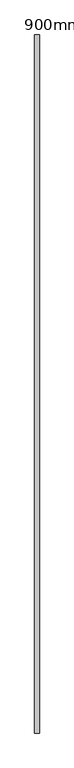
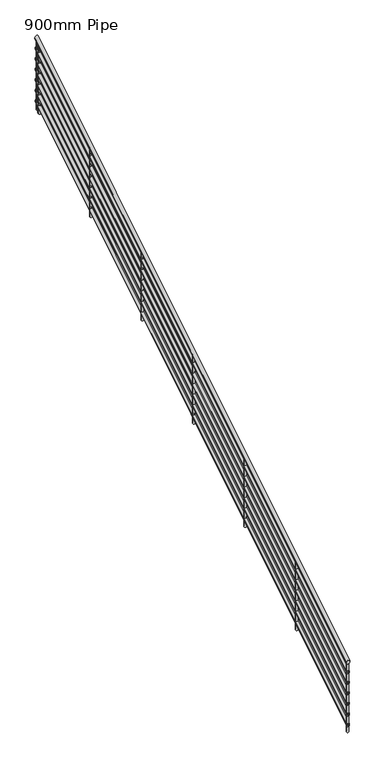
"""IFC4 building model written with IfcOpenShell, lengths in millimetres: railing geometry, 900mm Pipe."""

from ifc_helpers import new_model, si_unit, frame, origin, place, context, project, spatial, ellipse_curve, source, transform, mapped, element, save
from ifc_brep_helpers import plane_surface, cylinder_surface, advanced_brep


def railing_900mm_pipe_8454365b(model_context):
    return source(origin(), model_context, "Body", "AdvancedBrep", [
        advanced_brep(
        [(5551.7758541, -3889.7600263, 1046.0688642), (5591.7758541, -3889.7600263, 1046.0688642), (5551.7758541, 2160.2399737, 4776.5036468), (5591.7758541, 2160.2399737, 4776.5036468)],
        [
            (0, 1, ellipse_curve(frame((5571.7758541, -3889.7600263, 1046.0688642), z_axis=(0.0, -1.0, 0.0), x_axis=(0.0, 0.0, -1.0)), 23.4963532, 20.0)),
            (1, 0, ellipse_curve(frame((5571.7758541, -3889.7600263, 1046.0688642), z_axis=(0.0, -1.0, 0.0), x_axis=(0.0, 0.0, -1.0)), 23.4963532, 20.0)),
            (2, 3, ellipse_curve(frame((5571.7758541, 2160.2399737, 4776.5036468), z_axis=(0.0, 1.0, 0.0), x_axis=(0.0, 0.0, -1.0)), 23.4963532, 20.0)),
            (3, 2, ellipse_curve(frame((5571.7758541, 2160.2399737, 4776.5036468), z_axis=(0.0, 1.0, 0.0), x_axis=(0.0, 0.0, -1.0)), 23.4963532, 20.0)),
            (0, 2),
            (3, 1),
        ],
        [
            plane_surface(frame((5571.7758541, -3889.7600263, 1069.5652174), z_axis=(0.0, -1.0, 0.0), x_axis=(0.0, 0.0, 1.0))),
            plane_surface(frame((5571.7758541, 2160.2399737, 4800.0), z_axis=(0.0, 1.0, 0.0), x_axis=(0.0, 0.0, 1.0))),
            cylinder_surface(frame((5571.7758541, -3879.2630647, 1052.541299), z_axis=(0.0, -0.851195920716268, -0.524848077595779), x_axis=(1.0, 0.0, 0.0)), 20.0),
        ],
        [
            (0, [[1, 2]]),
            (1, [[3, 4]]),
            (2, [[-1, 5, -4, 6]]),
            (2, [[-2, -6, -3, -5]]),
        ],
    ),
        advanced_brep(
        [(5556.7758541, -3889.7600263, 926.9429525), (5586.7758541, -3889.7600263, 926.9429525), (5556.7758541, 2160.2399737, 4657.3777351), (5586.7758541, 2160.2399737, 4657.3777351)],
        [
            (0, 1, ellipse_curve(frame((5571.7758541, -3889.7600263, 926.9429525), z_axis=(0.0, -1.0, 0.0), x_axis=(0.0, 0.0, -1.0)), 17.6222649, 15.0)),
            (1, 0, ellipse_curve(frame((5571.7758541, -3889.7600263, 926.9429525), z_axis=(0.0, -1.0, 0.0), x_axis=(0.0, 0.0, -1.0)), 17.6222649, 15.0)),
            (2, 3, ellipse_curve(frame((5571.7758541, 2160.2399737, 4657.3777351), z_axis=(0.0, 1.0, 0.0), x_axis=(0.0, 0.0, -1.0)), 17.6222649, 15.0)),
            (3, 2, ellipse_curve(frame((5571.7758541, 2160.2399737, 4657.3777351), z_axis=(0.0, 1.0, 0.0), x_axis=(0.0, 0.0, -1.0)), 17.6222649, 15.0)),
            (0, 2),
            (3, 1),
        ],
        [
            plane_surface(frame((5571.7758541, -3889.7600263, 944.5652174), z_axis=(0.0, -1.0, 0.0), x_axis=(0.0, 0.0, 1.0))),
            plane_surface(frame((5571.7758541, 2160.2399737, 4675.0), z_axis=(0.0, 1.0, 0.0), x_axis=(0.0, 0.0, 1.0))),
            cylinder_surface(frame((5571.7758541, -3881.8873051, 931.7972786), z_axis=(0.0, -0.851195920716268, -0.524848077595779), x_axis=(1.0, 0.0, 0.0)), 15.0),
        ],
        [
            (0, [[1, 2]]),
            (1, [[3, 4]]),
            (2, [[-1, 5, -4, 6]]),
            (2, [[-2, -6, -3, -5]]),
        ],
    ),
        advanced_brep(
        [(5556.7758541, -3889.7600263, 801.9429525), (5586.7758541, -3889.7600263, 801.9429525), (5556.7758541, 2160.2399737, 4532.3777351), (5586.7758541, 2160.2399737, 4532.3777351)],
        [
            (0, 1, ellipse_curve(frame((5571.7758541, -3889.7600263, 801.9429525), z_axis=(0.0, -1.0, 0.0), x_axis=(0.0, 0.0, -1.0)), 17.6222649, 15.0)),
            (1, 0, ellipse_curve(frame((5571.7758541, -3889.7600263, 801.9429525), z_axis=(0.0, -1.0, 0.0), x_axis=(0.0, 0.0, -1.0)), 17.6222649, 15.0)),
            (2, 3, ellipse_curve(frame((5571.7758541, 2160.2399737, 4532.3777351), z_axis=(0.0, 1.0, 0.0), x_axis=(0.0, 0.0, -1.0)), 17.6222649, 15.0)),
            (3, 2, ellipse_curve(frame((5571.7758541, 2160.2399737, 4532.3777351), z_axis=(0.0, 1.0, 0.0), x_axis=(0.0, 0.0, -1.0)), 17.6222649, 15.0)),
            (0, 2),
            (3, 1),
        ],
        [
            plane_surface(frame((5571.7758541, -3889.7600263, 819.5652174), z_axis=(0.0, -1.0, 0.0), x_axis=(0.0, 0.0, 1.0))),
            plane_surface(frame((5571.7758541, 2160.2399737, 4550.0), z_axis=(0.0, 1.0, 0.0), x_axis=(0.0, 0.0, 1.0))),
            cylinder_surface(frame((5571.7758541, -3881.8873051, 806.7972786), z_axis=(0.0, -0.851195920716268, -0.524848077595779), x_axis=(1.0, 0.0, 0.0)), 15.0),
        ],
        [
            (0, [[1, 2]]),
            (1, [[3, 4]]),
            (2, [[-1, 5, -4, 6]]),
            (2, [[-2, -6, -3, -5]]),
        ],
    ),
        advanced_brep(
        [(5556.7758541, -3889.7600263, 676.9429525), (5586.7758541, -3889.7600263, 676.9429525), (5556.7758541, 2160.2399737, 4407.3777351), (5586.7758541, 2160.2399737, 4407.3777351)],
        [
            (0, 1, ellipse_curve(frame((5571.7758541, -3889.7600263, 676.9429525), z_axis=(0.0, -1.0, 0.0), x_axis=(0.0, 0.0, -1.0)), 17.6222649, 15.0)),
            (1, 0, ellipse_curve(frame((5571.7758541, -3889.7600263, 676.9429525), z_axis=(0.0, -1.0, 0.0), x_axis=(0.0, 0.0, -1.0)), 17.6222649, 15.0)),
            (2, 3, ellipse_curve(frame((5571.7758541, 2160.2399737, 4407.3777351), z_axis=(0.0, 1.0, 0.0), x_axis=(0.0, 0.0, -1.0)), 17.6222649, 15.0)),
            (3, 2, ellipse_curve(frame((5571.7758541, 2160.2399737, 4407.3777351), z_axis=(0.0, 1.0, 0.0), x_axis=(0.0, 0.0, -1.0)), 17.6222649, 15.0)),
            (0, 2),
            (3, 1),
        ],
        [
            plane_surface(frame((5571.7758541, -3889.7600263, 694.5652174), z_axis=(0.0, -1.0, 0.0), x_axis=(0.0, 0.0, 1.0))),
            plane_surface(frame((5571.7758541, 2160.2399737, 4425.0), z_axis=(0.0, 1.0, 0.0), x_axis=(0.0, 0.0, 1.0))),
            cylinder_surface(frame((5571.7758541, -3881.8873051, 681.7972786), z_axis=(0.0, -0.851195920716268, -0.524848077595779), x_axis=(1.0, 0.0, 0.0)), 15.0),
        ],
        [
            (0, [[1, 2]]),
            (1, [[3, 4]]),
            (2, [[-1, 5, -4, 6]]),
            (2, [[-2, -6, -3, -5]]),
        ],
    ),
        advanced_brep(
        [(5556.7758541, -3889.7600263, 551.9429525), (5586.7758541, -3889.7600263, 551.9429525), (5556.7758541, 2160.2399737, 4282.3777351), (5586.7758541, 2160.2399737, 4282.3777351)],
        [
            (0, 1, ellipse_curve(frame((5571.7758541, -3889.7600263, 551.9429525), z_axis=(0.0, -1.0, 0.0), x_axis=(0.0, 0.0, -1.0)), 17.6222649, 15.0)),
            (1, 0, ellipse_curve(frame((5571.7758541, -3889.7600263, 551.9429525), z_axis=(0.0, -1.0, 0.0), x_axis=(0.0, 0.0, -1.0)), 17.6222649, 15.0)),
            (2, 3, ellipse_curve(frame((5571.7758541, 2160.2399737, 4282.3777351), z_axis=(0.0, 1.0, 0.0), x_axis=(0.0, 0.0, -1.0)), 17.6222649, 15.0)),
            (3, 2, ellipse_curve(frame((5571.7758541, 2160.2399737, 4282.3777351), z_axis=(0.0, 1.0, 0.0), x_axis=(0.0, 0.0, -1.0)), 17.6222649, 15.0)),
            (0, 2),
            (3, 1),
        ],
        [
            plane_surface(frame((5571.7758541, -3889.7600263, 569.5652174), z_axis=(0.0, -1.0, 0.0), x_axis=(0.0, 0.0, 1.0))),
            plane_surface(frame((5571.7758541, 2160.2399737, 4300.0), z_axis=(0.0, 1.0, 0.0), x_axis=(0.0, 0.0, 1.0))),
            cylinder_surface(frame((5571.7758541, -3881.8873051, 556.7972786), z_axis=(0.0, -0.851195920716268, -0.524848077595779), x_axis=(1.0, 0.0, 0.0)), 15.0),
        ],
        [
            (0, [[1, 2]]),
            (1, [[3, 4]]),
            (2, [[-1, 5, -4, 6]]),
            (2, [[-2, -6, -3, -5]]),
        ],
    ),
        advanced_brep(
        [(5556.7758541, -3889.7600263, 426.9429525), (5586.7758541, -3889.7600263, 426.9429525), (5556.7758541, 2160.2399737, 4157.3777351), (5586.7758541, 2160.2399737, 4157.3777351)],
        [
            (0, 1, ellipse_curve(frame((5571.7758541, -3889.7600263, 426.9429525), z_axis=(0.0, -1.0, 0.0), x_axis=(0.0, 0.0, -1.0)), 17.6222649, 15.0)),
            (1, 0, ellipse_curve(frame((5571.7758541, -3889.7600263, 426.9429525), z_axis=(0.0, -1.0, 0.0), x_axis=(0.0, 0.0, -1.0)), 17.6222649, 15.0)),
            (2, 3, ellipse_curve(frame((5571.7758541, 2160.2399737, 4157.3777351), z_axis=(0.0, 1.0, 0.0), x_axis=(0.0, 0.0, -1.0)), 17.6222649, 15.0)),
            (3, 2, ellipse_curve(frame((5571.7758541, 2160.2399737, 4157.3777351), z_axis=(0.0, 1.0, 0.0), x_axis=(0.0, 0.0, -1.0)), 17.6222649, 15.0)),
            (0, 2),
            (3, 1),
        ],
        [
            plane_surface(frame((5571.7758541, -3889.7600263, 444.5652174), z_axis=(0.0, -1.0, 0.0), x_axis=(0.0, 0.0, 1.0))),
            plane_surface(frame((5571.7758541, 2160.2399737, 4175.0), z_axis=(0.0, 1.0, 0.0), x_axis=(0.0, 0.0, 1.0))),
            cylinder_surface(frame((5571.7758541, -3881.8873051, 431.7972786), z_axis=(0.0, -0.851195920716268, -0.524848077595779), x_axis=(1.0, 0.0, 0.0)), 15.0),
        ],
        [
            (0, [[1, 2]]),
            (1, [[3, 4]]),
            (2, [[-1, 5, -4, 6]]),
            (2, [[-2, -6, -3, -5]]),
        ],
    ),
        advanced_brep(
        [(5556.7758541, -3889.7600263, 301.9429525), (5586.7758541, -3889.7600263, 301.9429525), (5556.7758541, 2160.2399737, 4032.3777351), (5586.7758541, 2160.2399737, 4032.3777351)],
        [
            (0, 1, ellipse_curve(frame((5571.7758541, -3889.7600263, 301.9429525), z_axis=(0.0, -1.0, 0.0), x_axis=(0.0, 0.0, -1.0)), 17.6222649, 15.0)),
            (1, 0, ellipse_curve(frame((5571.7758541, -3889.7600263, 301.9429525), z_axis=(0.0, -1.0, 0.0), x_axis=(0.0, 0.0, -1.0)), 17.6222649, 15.0)),
            (2, 3, ellipse_curve(frame((5571.7758541, 2160.2399737, 4032.3777351), z_axis=(0.0, 1.0, 0.0), x_axis=(0.0, 0.0, -1.0)), 17.6222649, 15.0)),
            (3, 2, ellipse_curve(frame((5571.7758541, 2160.2399737, 4032.3777351), z_axis=(0.0, 1.0, 0.0), x_axis=(0.0, 0.0, -1.0)), 17.6222649, 15.0)),
            (0, 2),
            (3, 1),
        ],
        [
            plane_surface(frame((5571.7758541, -3889.7600263, 319.5652174), z_axis=(0.0, -1.0, 0.0), x_axis=(0.0, 0.0, 1.0))),
            plane_surface(frame((5571.7758541, 2160.2399737, 4050.0), z_axis=(0.0, 1.0, 0.0), x_axis=(0.0, 0.0, 1.0))),
            cylinder_surface(frame((5571.7758541, -3881.8873051, 306.7972786), z_axis=(0.0, -0.851195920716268, -0.524848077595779), x_axis=(1.0, 0.0, 0.0)), 15.0),
        ],
        [
            (0, [[1, 2]]),
            (1, [[3, 4]]),
            (2, [[-1, 5, -4, 6]]),
            (2, [[-2, -6, -3, -5]]),
        ],
    ),
        advanced_brep(
        [(5584.2758541, 2110.2399737, 4722.1772541), (5584.2758541, 2110.2399737, 3913.2082186), (5559.2758541, 2110.2399737, 3913.2082186), (5559.2758541, 2110.2399737, 4722.1772541)],
        [
            (0, 1),
            (1, 2, ellipse_curve(frame((5571.7758541, 2110.2399737, 3913.2082186), z_axis=(0.0, -0.5248480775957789, 0.851195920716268), x_axis=(0.0, 0.851195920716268, 0.5248480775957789)), 14.6852208, 12.5)),
            (2, 3),
            (3, 0, ellipse_curve(frame((5571.7758541, 2110.2399737, 4722.1772541), z_axis=(0.0, 0.5248480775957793, -0.8511959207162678), x_axis=(0.0, 0.8511959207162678, 0.524848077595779)), 14.6852208, 12.5)),
            (0, 3, ellipse_curve(frame((5571.7758541, 2110.2399737, 4722.1772541), z_axis=(0.0, 0.5248480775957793, -0.8511959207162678), x_axis=(0.0, 0.8511959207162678, 0.524848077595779)), 14.6852208, 12.5)),
            (2, 1, ellipse_curve(frame((5571.7758541, 2110.2399737, 3913.2082186), z_axis=(0.0, -0.5248480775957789, 0.851195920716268), x_axis=(0.0, 0.851195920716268, 0.5248480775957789)), 14.6852208, 12.5)),
        ],
        [
            cylinder_surface(frame((5571.7758541, 2110.2399737, 3813.2082186), z_axis=(0.0, 0.0, 1.0), x_axis=(-1.0, 0.0, 0.0)), 12.5),
            plane_surface(frame((5546.7758541, 2135.2399737, 4737.5922738), z_axis=(0.0, -0.5248480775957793, 0.8511959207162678), x_axis=(1.0, 0.0, 0.0))),
            plane_surface(frame((5546.7758541, 2085.2399737, 3897.7931988), z_axis=(0.0, 0.5248480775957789, -0.851195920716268), x_axis=(1.0, 0.0, 0.0))),
        ],
        [
            (0, [[1, 2, 3, 4]]),
            (0, [[-1, 5, -3, 6]]),
            (1, [[-4, -5]]),
            (2, [[-2, -6]]),
        ],
    ),
        advanced_brep(
        [(5584.2758541, 1110.2399737, 4105.5764635), (5584.2758541, 1110.2399737, 3296.6074281), (5559.2758541, 1110.2399737, 3296.6074281), (5559.2758541, 1110.2399737, 4105.5764635)],
        [
            (0, 1),
            (1, 2, ellipse_curve(frame((5571.7758541, 1110.2399737, 3296.6074281), z_axis=(0.0, -0.5248480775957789, 0.851195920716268), x_axis=(0.0, 0.851195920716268, 0.5248480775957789)), 14.6852208, 12.5)),
            (2, 3),
            (3, 0, ellipse_curve(frame((5571.7758541, 1110.2399737, 4105.5764635), z_axis=(0.0, 0.5248480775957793, -0.8511959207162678), x_axis=(0.0, 0.8511959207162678, 0.524848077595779)), 14.6852208, 12.5)),
            (0, 3, ellipse_curve(frame((5571.7758541, 1110.2399737, 4105.5764635), z_axis=(0.0, 0.5248480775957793, -0.8511959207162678), x_axis=(0.0, 0.8511959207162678, 0.524848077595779)), 14.6852208, 12.5)),
            (2, 1, ellipse_curve(frame((5571.7758541, 1110.2399737, 3296.6074281), z_axis=(0.0, -0.5248480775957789, 0.851195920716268), x_axis=(0.0, 0.851195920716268, 0.5248480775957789)), 14.6852208, 12.5)),
        ],
        [
            cylinder_surface(frame((5571.7758541, 1110.2399737, 3196.6074281), z_axis=(0.0, 0.0, 1.0), x_axis=(-1.0, 0.0, 0.0)), 12.5),
            plane_surface(frame((5546.7758541, 1135.2399737, 4120.9914833), z_axis=(0.0, -0.5248480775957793, 0.8511959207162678), x_axis=(1.0, 0.0, 0.0))),
            plane_surface(frame((5546.7758541, 1085.2399737, 3281.1924083), z_axis=(0.0, 0.5248480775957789, -0.851195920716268), x_axis=(1.0, 0.0, 0.0))),
        ],
        [
            (0, [[1, 2, 3, 4]]),
            (0, [[-1, 5, -3, 6]]),
            (1, [[-4, -5]]),
            (2, [[-2, -6]]),
        ],
    ),
        advanced_brep(
        [(5584.2758541, 110.2399737, 3488.975673), (5584.2758541, 110.2399737, 2680.0066376), (5559.2758541, 110.2399737, 2680.0066376), (5559.2758541, 110.2399737, 3488.975673)],
        [
            (0, 1),
            (1, 2, ellipse_curve(frame((5571.7758541, 110.2399737, 2680.0066376), z_axis=(0.0, -0.5248480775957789, 0.851195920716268), x_axis=(0.0, 0.851195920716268, 0.5248480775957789)), 14.6852208, 12.5)),
            (2, 3),
            (3, 0, ellipse_curve(frame((5571.7758541, 110.2399737, 3488.975673), z_axis=(0.0, 0.5248480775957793, -0.8511959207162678), x_axis=(0.0, 0.8511959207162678, 0.524848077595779)), 14.6852208, 12.5)),
            (0, 3, ellipse_curve(frame((5571.7758541, 110.2399737, 3488.975673), z_axis=(0.0, 0.5248480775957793, -0.8511959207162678), x_axis=(0.0, 0.8511959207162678, 0.524848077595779)), 14.6852208, 12.5)),
            (2, 1, ellipse_curve(frame((5571.7758541, 110.2399737, 2680.0066376), z_axis=(0.0, -0.5248480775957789, 0.851195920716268), x_axis=(0.0, 0.851195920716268, 0.5248480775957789)), 14.6852208, 12.5)),
        ],
        [
            cylinder_surface(frame((5571.7758541, 110.2399737, 2580.0066376), z_axis=(0.0, 0.0, 1.0), x_axis=(-1.0, 0.0, 0.0)), 12.5),
            plane_surface(frame((5546.7758541, 135.2399737, 3504.3906928), z_axis=(0.0, -0.5248480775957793, 0.8511959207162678), x_axis=(1.0, 0.0, 0.0))),
            plane_surface(frame((5546.7758541, 85.2399737, 2664.5916178), z_axis=(0.0, 0.5248480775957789, -0.851195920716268), x_axis=(1.0, 0.0, 0.0))),
        ],
        [
            (0, [[1, 2, 3, 4]]),
            (0, [[-1, 5, -3, 6]]),
            (1, [[-4, -5]]),
            (2, [[-2, -6]]),
        ],
    ),
        advanced_brep(
        [(5584.2758541, -889.7600263, 2872.3748825), (5584.2758541, -889.7600263, 2063.4058471), (5559.2758541, -889.7600263, 2063.4058471), (5559.2758541, -889.7600263, 2872.3748825)],
        [
            (0, 1),
            (1, 2, ellipse_curve(frame((5571.7758541, -889.7600263, 2063.4058471), z_axis=(0.0, -0.5248480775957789, 0.851195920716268), x_axis=(0.0, 0.851195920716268, 0.5248480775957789)), 14.6852208, 12.5)),
            (2, 3),
            (3, 0, ellipse_curve(frame((5571.7758541, -889.7600263, 2872.3748825), z_axis=(0.0, 0.5248480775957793, -0.8511959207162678), x_axis=(0.0, 0.8511959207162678, 0.524848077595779)), 14.6852208, 12.5)),
            (0, 3, ellipse_curve(frame((5571.7758541, -889.7600263, 2872.3748825), z_axis=(0.0, 0.5248480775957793, -0.8511959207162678), x_axis=(0.0, 0.8511959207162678, 0.524848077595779)), 14.6852208, 12.5)),
            (2, 1, ellipse_curve(frame((5571.7758541, -889.7600263, 2063.4058471), z_axis=(0.0, -0.5248480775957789, 0.851195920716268), x_axis=(0.0, 0.851195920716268, 0.5248480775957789)), 14.6852208, 12.5)),
        ],
        [
            cylinder_surface(frame((5571.7758541, -889.7600263, 1963.4058471), z_axis=(0.0, 0.0, 1.0), x_axis=(-1.0, 0.0, 0.0)), 12.5),
            plane_surface(frame((5546.7758541, -864.7600263, 2887.7899023), z_axis=(0.0, -0.5248480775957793, 0.8511959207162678), x_axis=(1.0, 0.0, 0.0))),
            plane_surface(frame((5546.7758541, -914.7600263, 2047.9908273), z_axis=(0.0, 0.5248480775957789, -0.851195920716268), x_axis=(1.0, 0.0, 0.0))),
        ],
        [
            (0, [[1, 2, 3, 4]]),
            (0, [[-1, 5, -3, 6]]),
            (1, [[-4, -5]]),
            (2, [[-2, -6]]),
        ],
    ),
        advanced_brep(
        [(5584.2758541, -1889.7600263, 2255.774092), (5584.2758541, -1889.7600263, 1446.8050565), (5559.2758541, -1889.7600263, 1446.8050565), (5559.2758541, -1889.7600263, 2255.774092)],
        [
            (0, 1),
            (1, 2, ellipse_curve(frame((5571.7758541, -1889.7600263, 1446.8050565), z_axis=(0.0, -0.5248480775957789, 0.851195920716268), x_axis=(0.0, 0.851195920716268, 0.5248480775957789)), 14.6852208, 12.5)),
            (2, 3),
            (3, 0, ellipse_curve(frame((5571.7758541, -1889.7600263, 2255.774092), z_axis=(0.0, 0.5248480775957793, -0.8511959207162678), x_axis=(0.0, 0.8511959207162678, 0.524848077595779)), 14.6852208, 12.5)),
            (0, 3, ellipse_curve(frame((5571.7758541, -1889.7600263, 2255.774092), z_axis=(0.0, 0.5248480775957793, -0.8511959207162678), x_axis=(0.0, 0.8511959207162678, 0.524848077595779)), 14.6852208, 12.5)),
            (2, 1, ellipse_curve(frame((5571.7758541, -1889.7600263, 1446.8050565), z_axis=(0.0, -0.5248480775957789, 0.851195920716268), x_axis=(0.0, 0.851195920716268, 0.5248480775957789)), 14.6852208, 12.5)),
        ],
        [
            cylinder_surface(frame((5571.7758541, -1889.7600263, 1346.8050565), z_axis=(0.0, 0.0, 1.0), x_axis=(-1.0, 0.0, 0.0)), 12.5),
            plane_surface(frame((5546.7758541, -1864.7600263, 2271.1891118), z_axis=(0.0, -0.5248480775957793, 0.8511959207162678), x_axis=(1.0, 0.0, 0.0))),
            plane_surface(frame((5546.7758541, -1914.7600263, 1431.3900368), z_axis=(0.0, 0.5248480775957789, -0.851195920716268), x_axis=(1.0, 0.0, 0.0))),
        ],
        [
            (0, [[1, 2, 3, 4]]),
            (0, [[-1, 5, -3, 6]]),
            (1, [[-4, -5]]),
            (2, [[-2, -6]]),
        ],
    ),
        advanced_brep(
        [(5584.2758541, -2889.7600263, 1639.1733015), (5584.2758541, -2889.7600263, 830.204266), (5559.2758541, -2889.7600263, 830.204266), (5559.2758541, -2889.7600263, 1639.1733015)],
        [
            (0, 1),
            (1, 2, ellipse_curve(frame((5571.7758541, -2889.7600263, 830.204266), z_axis=(0.0, -0.5248480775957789, 0.851195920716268), x_axis=(0.0, 0.851195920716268, 0.5248480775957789)), 14.6852208, 12.5)),
            (2, 3),
            (3, 0, ellipse_curve(frame((5571.7758541, -2889.7600263, 1639.1733015), z_axis=(0.0, 0.5248480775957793, -0.8511959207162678), x_axis=(0.0, 0.8511959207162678, 0.524848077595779)), 14.6852208, 12.5)),
            (0, 3, ellipse_curve(frame((5571.7758541, -2889.7600263, 1639.1733015), z_axis=(0.0, 0.5248480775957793, -0.8511959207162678), x_axis=(0.0, 0.8511959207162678, 0.524848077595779)), 14.6852208, 12.5)),
            (2, 1, ellipse_curve(frame((5571.7758541, -2889.7600263, 830.204266), z_axis=(0.0, -0.5248480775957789, 0.851195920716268), x_axis=(0.0, 0.851195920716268, 0.5248480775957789)), 14.6852208, 12.5)),
        ],
        [
            cylinder_surface(frame((5571.7758541, -2889.7600263, 730.204266), z_axis=(0.0, 0.0, 1.0), x_axis=(-1.0, 0.0, 0.0)), 12.5),
            plane_surface(frame((5546.7758541, -2864.7600263, 1654.5883213), z_axis=(0.0, -0.5248480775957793, 0.8511959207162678), x_axis=(1.0, 0.0, 0.0))),
            plane_surface(frame((5546.7758541, -2914.7600263, 814.7892463), z_axis=(0.0, 0.5248480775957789, -0.851195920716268), x_axis=(1.0, 0.0, 0.0))),
        ],
        [
            (0, [[1, 2, 3, 4]]),
            (0, [[-1, 5, -3, 6]]),
            (1, [[-4, -5]]),
            (2, [[-2, -6]]),
        ],
    ),
        advanced_brep(
        [(5584.2758541, 2147.7399737, 4745.2997837), (5584.2758541, 2147.7399737, 3936.3307482), (5559.2758541, 2147.7399737, 3936.3307482), (5559.2758541, 2147.7399737, 4745.2997837)],
        [
            (0, 1),
            (1, 2, ellipse_curve(frame((5571.7758541, 2147.7399737, 3936.3307482), z_axis=(0.0, -0.5248480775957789, 0.851195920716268), x_axis=(0.0, 0.851195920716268, 0.5248480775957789)), 14.6852208, 12.5)),
            (2, 3),
            (3, 0, ellipse_curve(frame((5571.7758541, 2147.7399737, 4745.2997837), z_axis=(0.0, 0.5248480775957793, -0.8511959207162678), x_axis=(0.0, 0.8511959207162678, 0.524848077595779)), 14.6852208, 12.5)),
            (0, 3, ellipse_curve(frame((5571.7758541, 2147.7399737, 4745.2997837), z_axis=(0.0, 0.5248480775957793, -0.8511959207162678), x_axis=(0.0, 0.8511959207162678, 0.524848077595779)), 14.6852208, 12.5)),
            (2, 1, ellipse_curve(frame((5571.7758541, 2147.7399737, 3936.3307482), z_axis=(0.0, -0.5248480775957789, 0.851195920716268), x_axis=(0.0, 0.851195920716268, 0.5248480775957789)), 14.6852208, 12.5)),
        ],
        [
            cylinder_surface(frame((5571.7758541, 2147.7399737, 3836.3307482), z_axis=(0.0, 0.0, 1.0), x_axis=(-1.0, 0.0, 0.0)), 12.5),
            plane_surface(frame((5546.7758541, 2172.7399737, 4760.7148035), z_axis=(0.0, -0.5248480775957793, 0.8511959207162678), x_axis=(1.0, 0.0, 0.0))),
            plane_surface(frame((5546.7758541, 2122.7399737, 3920.9157285), z_axis=(0.0, 0.5248480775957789, -0.851195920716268), x_axis=(1.0, 0.0, 0.0))),
        ],
        [
            (0, [[1, 2, 3, 4]]),
            (0, [[-1, 5, -3, 6]]),
            (1, [[-4, -5]]),
            (2, [[-2, -6]]),
        ],
    ),
        advanced_brep(
        [(5584.2758541, -3877.2600263, 1030.2800209), (5584.2758541, -3877.2600263, 221.3109854), (5559.2758541, -3877.2600263, 221.3109854), (5559.2758541, -3877.2600263, 1030.2800209)],
        [
            (0, 1),
            (1, 2, ellipse_curve(frame((5571.7758541, -3877.2600263, 221.3109854), z_axis=(0.0, -0.5248480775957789, 0.851195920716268), x_axis=(0.0, 0.851195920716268, 0.5248480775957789)), 14.6852208, 12.5)),
            (2, 3),
            (3, 0, ellipse_curve(frame((5571.7758541, -3877.2600263, 1030.2800209), z_axis=(0.0, 0.5248480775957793, -0.8511959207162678), x_axis=(0.0, 0.8511959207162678, 0.524848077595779)), 14.6852208, 12.5)),
            (0, 3, ellipse_curve(frame((5571.7758541, -3877.2600263, 1030.2800209), z_axis=(0.0, 0.5248480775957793, -0.8511959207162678), x_axis=(0.0, 0.8511959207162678, 0.524848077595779)), 14.6852208, 12.5)),
            (2, 1, ellipse_curve(frame((5571.7758541, -3877.2600263, 221.3109854), z_axis=(0.0, -0.5248480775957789, 0.851195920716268), x_axis=(0.0, 0.851195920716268, 0.5248480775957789)), 14.6852208, 12.5)),
        ],
        [
            cylinder_surface(frame((5571.7758541, -3877.2600263, 121.3109854), z_axis=(0.0, 0.0, 1.0), x_axis=(-1.0, 0.0, 0.0)), 12.5),
            plane_surface(frame((5546.7758541, -3852.2600263, 1045.6950406), z_axis=(0.0, -0.5248480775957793, 0.8511959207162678), x_axis=(1.0, 0.0, 0.0))),
            plane_surface(frame((5546.7758541, -3902.2600263, 205.8959656), z_axis=(0.0, 0.5248480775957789, -0.851195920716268), x_axis=(1.0, 0.0, 0.0))),
        ],
        [
            (0, [[1, 2, 3, 4]]),
            (0, [[-1, 5, -3, 6]]),
            (1, [[-4, -5]]),
            (2, [[-2, -6]]),
        ],
    ),
    ])


if __name__ == "__main__":
    model = new_model("IFC4")
    model_context = context("Model", 3, world=origin())
    ifc_project = project(units=[si_unit("LENGTHUNIT", "METRE", prefix="MILLI")], contexts=[model_context])
    site = spatial("IfcSite", under=ifc_project)
    building = spatial("IfcBuilding", under=site)
    placement = place(None, origin())
    railing_900mm_pipe_shape = railing_900mm_pipe_8454365b(model_context)
    element("IfcRailing", 1, ObjectType="900mm Pipe", at=placement, inside=building, context=model_context, shape_type="MappedRepresentation", body=[
        mapped(railing_900mm_pipe_shape, transform((0.0, 0.0, 0.0), x_axis=(1.0, 0.0, 0.0), y_axis=(0.0, 1.0, 0.0), z_axis=(0.0, 0.0, 1.0))),
    ])
    save(model, "model.ifc")
